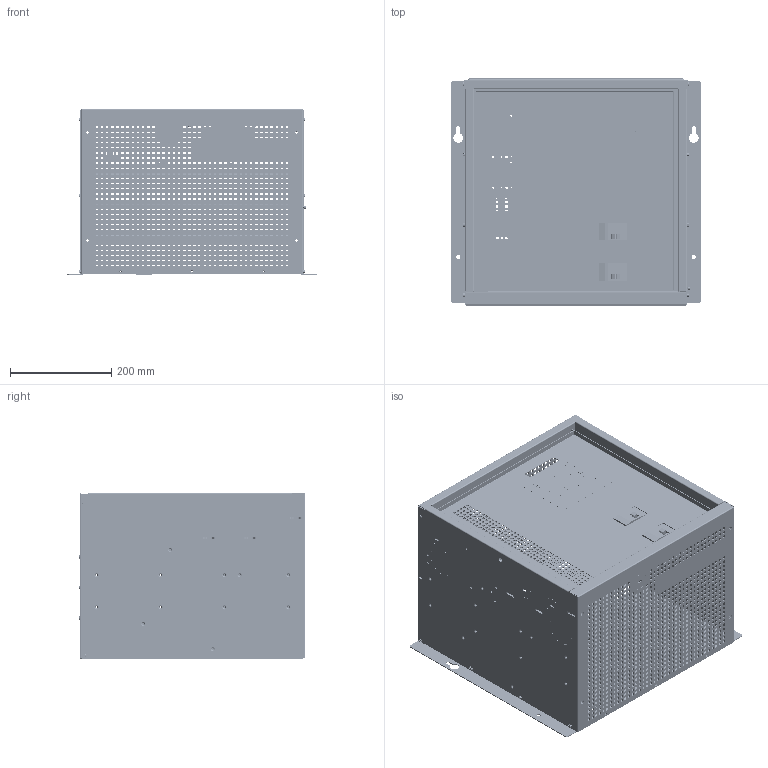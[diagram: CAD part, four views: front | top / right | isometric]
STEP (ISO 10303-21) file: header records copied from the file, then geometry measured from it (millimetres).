
FILE_DESCRIPTION (( 'STEP AP214' ), '1' );
FILE_NAME ('3DCAD-Q1-WALL-MOUNT-STEP_REVA.STEP', '2014-04-03T19:11:19', ( 'barrye' ), ( '' ), 'SwSTEP 2.0', 'SolidWorks 2012', '' );
FILE_SCHEMA (( 'AUTOMOTIVE_DESIGN' ));
Length unit declared in the file: inch
Products named in the file (15): 932029_93882A193; 808561; q1_master_door_enclosure_only; 82-04-01_painted; 808560; q1_master_breaker_panel_Breakers only; 702XXX_QOU_702521; 702XXX_QOU; breaker_squared_qou_2_pole_part; 82-05-01_painted; 82-05-01_reinforce-channel-M1_painted; 82-02-02_painted; 82-01-02_painted; 3DCAD-Q1-WALL-MOUNT-STEP_REVA
Assembly tree (27 placements, depth 4):
  3DCAD-Q1-WALL-MOUNT-STEP_REVA
    82-01-02_painted
    82-02-02_painted
    82-05-01_painted
      82-05-01_painted
      82-05-01_reinforce-channel-M1_painted
    q1_master_breaker_panel_Breakers only
      702XXX_QOU
        breaker_squared_qou_2_pole_part
      702XXX_QOU_702521
        breaker_squared_qou_2_pole_part
    q1_master_door_enclosure_only
      808560
      82-04-01_painted
    808561
    932029_93882A193  x13
Bounding box: 492.12 x 448.1 x 328.95 mm (x, y, z)
Volume: 2149725.2 mm3; surface area: 2301365.1 mm2
Topology: 52 solids, 52 shells, 12815 faces, 37038 edges, 24599 vertices
Faces by surface type: plane 11045, cylinder 817, bspline 740, cone 121, torus 92
Full cylindrical faces by diameter (mm): 0.076 x1, 1.143 x1, 2.438 x1, 2.896 x6, 2.997 x11, 3.175 x2, 3.749 x3, 3.75 x34, 3.988 x11, 4.14 x5, 4.496 x12, 4.75 x8, 4.775 x2, 4.801 x5, 4.826 x1, 4.978 x11, 5.105 x17, 5.156 x4, 5.385 x7, 5.537 x5, 6.02 x5, 6.502 x4, 6.788 x20, 7.137 x30, 7.545 x14, 7.925 x12, 8.839 x13, 9.525 x10, 9.576 x2, 11.938 x2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
Entity records: 439192 total; most frequent: CARTESIAN_POINT 98438, ORIENTED_EDGE 69228, DIRECTION 58484, EDGE_CURVE 34614, LINE 32146, VECTOR 32146, VERTEX_POINT 23170, EDGE_LOOP 17512
